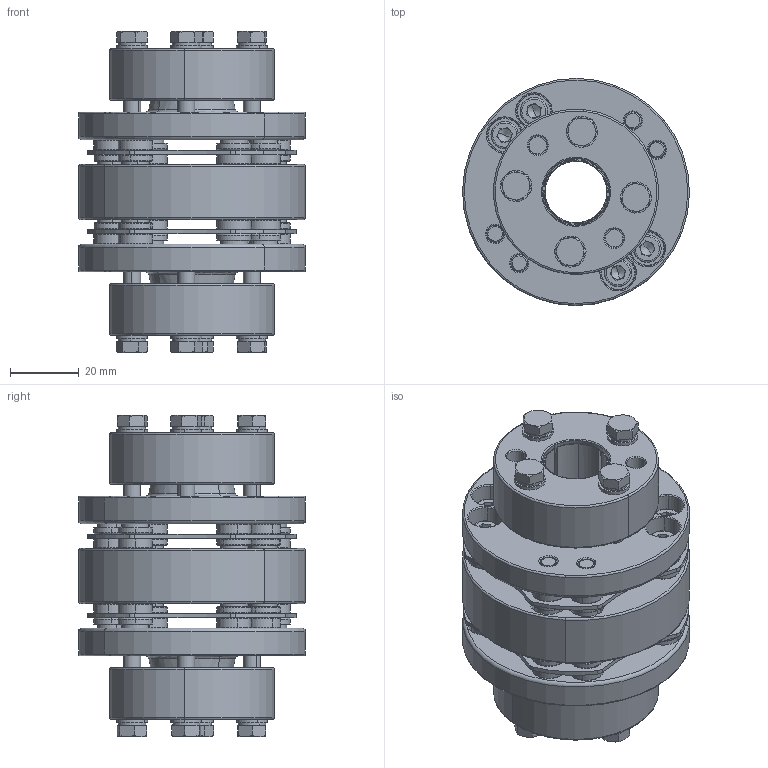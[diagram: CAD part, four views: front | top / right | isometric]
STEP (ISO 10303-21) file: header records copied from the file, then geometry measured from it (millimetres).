
FILE_DESCRIPTION (( 'STEP AP214' ), '1' );
FILE_NAME ('SHDW-66T.STEP', '2009-05-22T01:16:58', ( '歜煽繹' ), ( '' ), 'SwSTEP 2.0', 'SolidWorks 2007', '' );
FILE_SCHEMA (( 'AUTOMOTIVE_DESIGN' ));
Length unit declared in the file: millimetre
Products named in the file (10): M5x14-1_ル遽; sus-plate-1_ル遽; sdw66-middle_ル遽; sdw66-body-1_ル遽; M5x25_H_H-1_ル遽; sdw66-head-1_ル遽; collar-2-1_ル遽; collar-1-1_ル遽; Washer-1_ル遽; SHDW-66T
Assembly tree (71 placements, depth 2):
  SHDW-66T
    M5x25_H_H-1_ル遽  x8
    M5x14-1_ル遽  x16
    collar-1-1_ル遽  x16
    sdw66-head-1_ル遽  x2
    Washer-1_ル遽  x8
    sdw66-body-1_ル遽  x2
    collar-2-1_ル遽  x16
    sus-plate-1_ル遽  x2
    sdw66-middle_ル遽
Bounding box: 66 x 66 x 93.4 mm (x, y, z)
Volume: 139993 mm3; surface area: 79864.1 mm2
Topology: 71 solids, 71 shells, 1758 faces, 3942 edges, 2370 vertices
Faces by surface type: plane 522, cylinder 502, torus 444, cone 268, bspline 22
Entity records: 17102 total; most frequent: DIRECTION 2409, CARTESIAN_POINT 2305, ORIENTED_EDGE 1882, AXIS2_PLACEMENT_3D 1052, EDGE_CURVE 941, CIRCLE 592, VERTEX_POINT 580, EDGE_LOOP 497
